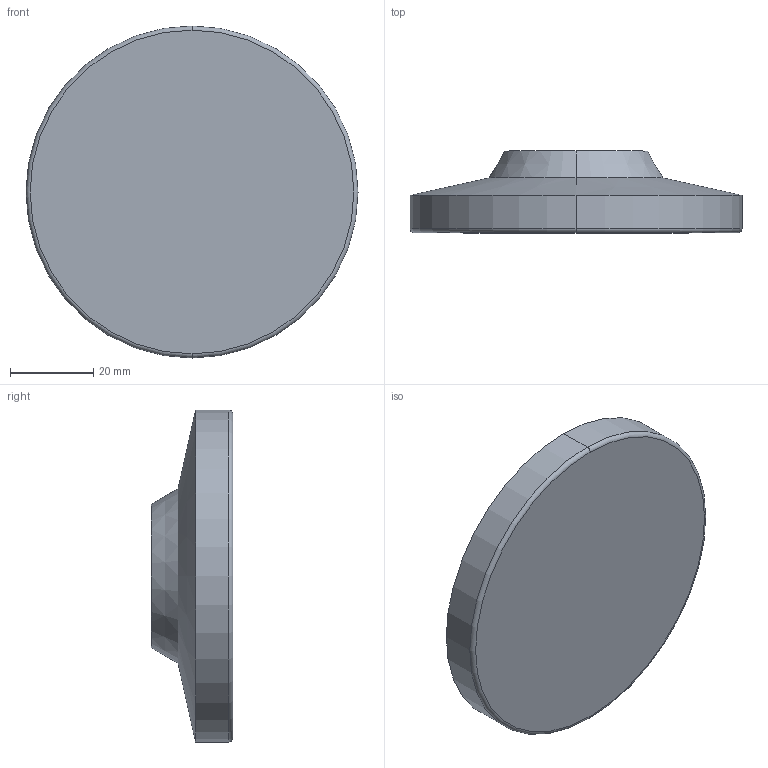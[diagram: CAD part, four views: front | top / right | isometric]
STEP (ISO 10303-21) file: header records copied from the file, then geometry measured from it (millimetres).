
FILE_DESCRIPTION (( 'STEP AP214' ), '1' );
FILE_NAME ('6311.3-80-20-N.step', '2023-04-17T05:34:37', ( '' ), ( '' ), 'SwSTEP 2.0', 'SolidWorks 2022', '' );
FILE_SCHEMA (( 'AUTOMOTIVE_DESIGN' ));
Length unit declared in the file: millimetre
Products named in the file (1): 6311.3-80-20-N
Bounding box: 80 x 19.7 x 80 mm (x, y, z)
Volume: 62521.2 mm3; surface area: 15268.8 mm2
Topology: 1 solids, 1 shells, 30 faces, 67 edges, 42 vertices
Faces by surface type: cylinder 12, torus 6, plane 6, cone 4, sphere 2
Entity records: 990 total; most frequent: CARTESIAN_POINT 176, DIRECTION 169, ORIENTED_EDGE 134, AXIS2_PLACEMENT_3D 75, EDGE_CURVE 67, CIRCLE 44, VERTEX_POINT 42, EDGE_LOOP 33
